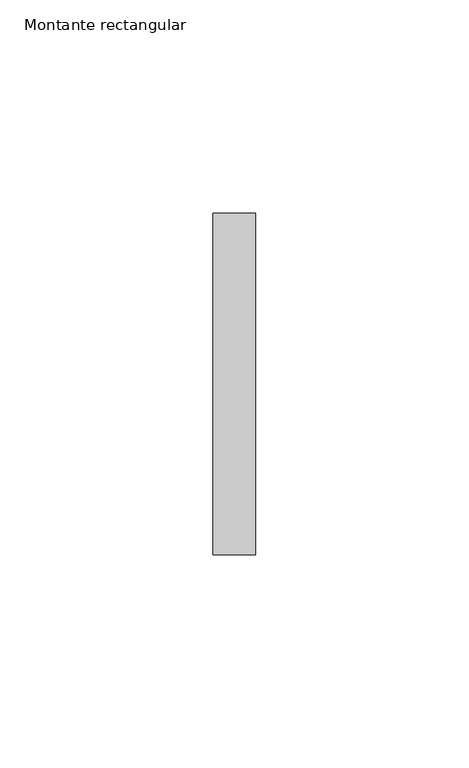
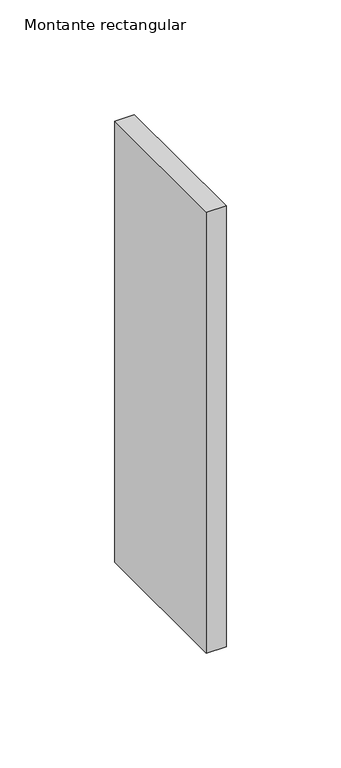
"""IFC4 building model written with IfcOpenShell, lengths in millimetres: member geometry, Montante rectangular : Junta de paves."""

import ifcopenshell
import ifcopenshell.guid

model = None  # the IFC model being written
_history = None  # IfcOwnerHistory: only IFC2X3 demands one
_inside = {}  # id of a spatial element -> (the spatial element, [elements in it])
_under = {}  # id of a project, library or spatial element -> (it, [spatial elements below it])
_declared = {}  # id of a project -> (the project, [libraries it declares])
_typed = {}  # id of a type object -> (the type object, [elements of that type])
_made_of = {}  # id of a material, layer set ... -> (it, [elements and type objects made of it])


def new_model(schema):
    """Start an empty IFC model of exactly this schema.

    Asked for "IFC4X3", IfcOpenShell would pick the latest addendum, in which some entities
    have other attributes; the version numbers below select the first issue.
    IFC2X3 requires an IfcOwnerHistory on every rooted entity: one is made here for all.
    """
    global model, _history
    if schema == "IFC4X3":
        model = ifcopenshell.file(schema_version=(4, 3, 0, 0))
    else:
        model = ifcopenshell.file(schema=schema)
    _inside.clear()
    _under.clear()
    _declared.clear()
    _typed.clear()
    _made_of.clear()
    _history = None
    if model.schema == "IFC2X3":
        org = make("IfcOrganization", Name="unknown")
        user = make(
            "IfcPersonAndOrganization",
            ThePerson=make("IfcPerson", FamilyName="unknown"),
            TheOrganization=org,
        )
        app = make(
            "IfcApplication",
            ApplicationDeveloper=org,
            Version="unknown",
            ApplicationFullName="unknown",
            ApplicationIdentifier="unknown",
        )
        _history = make(
            "IfcOwnerHistory",
            OwningUser=user,
            OwningApplication=app,
            ChangeAction="ADDED",
            CreationDate=0,
        )
    return model


def make(cls, **values):
    """One entity of the class cls with the attributes given. An attribute that is None is left unset."""
    return model.create_entity(
        cls, **{name: value for name, value in values.items() if value is not None}
    )


def rooted(cls, **values):
    """An entity with a GlobalId (a new one), such as an element, a storey or a relation."""
    return make(cls, GlobalId=ifcopenshell.guid.new(), OwnerHistory=_history, **values)


def si_unit(unit_type, name, prefix=None):
    """IfcSIUnit, for example si_unit("LENGTHUNIT", "METRE", prefix="MILLI")."""
    return make("IfcSIUnit", UnitType=unit_type, Prefix=prefix, Name=name)


def assignment(units):
    """IfcUnitAssignment: the units of a project."""
    return None if units is None else make("IfcUnitAssignment", Units=units)


def point(xyz):
    """IfcCartesianPoint."""
    return None if xyz is None else make("IfcCartesianPoint", Coordinates=xyz)


def direction(xyz):
    """IfcDirection."""
    return None if xyz is None else make("IfcDirection", DirectionRatios=xyz)


def frame(location, z_axis=None, x_axis=None):
    """IfcAxis2Placement3D, a coordinate frame: its origin and axes. An axis left out is left unset."""
    return make(
        "IfcAxis2Placement3D",
        Location=point(location),
        Axis=direction(z_axis),
        RefDirection=direction(x_axis),
    )


def origin():
    """The frame at (0, 0, 0) with its axes left unset."""
    return frame((0.0, 0.0, 0.0))


def place(relative_to, where):
    """IfcLocalPlacement: puts the frame where relative to a parent placement (None: the world)."""
    return make(
        "IfcLocalPlacement", PlacementRelTo=relative_to, RelativePlacement=where
    )


def context(
    kind, dimensions, precision=None, world=None, true_north=None, identifier=None
):
    """IfcGeometricRepresentationContext, for example the 3D "Model" context."""
    return make(
        "IfcGeometricRepresentationContext",
        ContextIdentifier=identifier,
        ContextType=kind,
        CoordinateSpaceDimension=dimensions,
        Precision=precision,
        WorldCoordinateSystem=world,
        TrueNorth=true_north,
    )


def project(units=None, contexts=None):
    """IfcProject with its units and contexts."""
    return rooted(
        "IfcProject",
        Name="project",
        RepresentationContexts=contexts,
        UnitsInContext=assignment(units),
    )


def spatial(cls, under=None, at=None, **own):
    """A site, building, storey or space (cls), placed at a placement, below another one or the project."""
    s = rooted(cls, ObjectPlacement=at, **own)
    if under is not None:
        _under.setdefault(under.id(), (under, []))[1].append(s)
    return s


def polyline(points):
    """IfcPolyline through the points."""
    return make("IfcPolyline", Points=[point(p) for p in points])


def outline(outer, holes=None, kind="AREA"):
    """IfcArbitraryClosedProfileDef: a profile drawn as a closed curve; with holes, ...WithVoids."""
    if holes is None:
        return make("IfcArbitraryClosedProfileDef", ProfileType=kind, OuterCurve=outer)
    return make(
        "IfcArbitraryProfileDefWithVoids",
        ProfileType=kind,
        OuterCurve=outer,
        InnerCurves=holes,
    )


def extrude(swept, where, along, depth):
    """IfcExtrudedAreaSolid: the profile swept, set in the frame where, extruded along a direction by depth."""
    return make(
        "IfcExtrudedAreaSolid",
        SweptArea=swept,
        Position=where,
        ExtrudedDirection=direction(along),
        Depth=depth,
    )


def shape(context_of_items, identifier, shape_type, items):
    """IfcShapeRepresentation: the items that make up one representation, for example the "Body"."""
    return make(
        "IfcShapeRepresentation",
        ContextOfItems=context_of_items,
        RepresentationIdentifier=identifier,
        RepresentationType=shape_type,
        Items=items,
    )


def source(mapping_origin, context_of_items, identifier, shape_type, items):
    """IfcRepresentationMap: a shape defined once, which mapped items show again and again."""
    return make(
        "IfcRepresentationMap",
        MappingOrigin=mapping_origin,
        MappedRepresentation=shape(context_of_items, identifier, shape_type, items),
    )


def transform(
    local_origin,
    x_axis=None,
    y_axis=None,
    z_axis=None,
    scale=None,
    scale2=None,
    scale3=None,
    uniform=True,
):
    """IfcCartesianTransformationOperator3D, or its non-uniform kind. x_axis, y_axis, z_axis: its Axis1, 2, 3."""
    if uniform:
        return make(
            "IfcCartesianTransformationOperator3D",
            Axis1=direction(x_axis),
            Axis2=direction(y_axis),
            LocalOrigin=point(local_origin),
            Scale=scale,
            Axis3=direction(z_axis),
        )
    return make(
        "IfcCartesianTransformationOperator3DnonUniform",
        Axis1=direction(x_axis),
        Axis2=direction(y_axis),
        LocalOrigin=point(local_origin),
        Scale=scale,
        Axis3=direction(z_axis),
        Scale2=scale2,
        Scale3=scale3,
    )


def mapped(mapping_source, mapping_target):
    """IfcMappedItem: shows the shape of a source again, moved by a transform."""
    return make(
        "IfcMappedItem", MappingSource=mapping_source, MappingTarget=mapping_target
    )


def made_of(thing, what):
    """Note that an element or type object is made of a material, layer set ...; save() writes the relation."""
    if what is not None:
        _made_of.setdefault(what.id(), (what, []))[1].append(thing)
    return thing


def element(
    cls,
    number,
    at=None,
    inside=None,
    cuts=None,
    type_object=None,
    material=None,
    context=None,
    identifier="Body",
    shape_type=None,
    held_by="IfcProductDefinitionShape",
    body=None,
    shapes=None,
    **own,
):
    """One element of the class cls, such as IfcWall. Its Tag is "e" and its number.

    at: its placement. inside: the storey or other place that contains it. cuts: it is an
    opening in that element (IfcRelVoidsElement). A single representation is given by context,
    identifier, shape_type and body (its items); several are given by shapes. held_by: the class
    of the entity that holds the representations. save() writes the other relations.
    """
    e = rooted(cls, Tag="e%d" % number, ObjectPlacement=at, **own)
    if body is not None:
        shapes = [shape(context, identifier, shape_type, body)]
    if shapes is not None:
        e.Representation = make(held_by, Representations=shapes)
    if inside is not None:
        _inside.setdefault(inside.id(), (inside, []))[1].append(e)
    if cuts is not None:
        rooted(
            "IfcRelVoidsElement", RelatingBuildingElement=cuts, RelatedOpeningElement=e
        )
    if type_object is not None:
        _typed.setdefault(type_object.id(), (type_object, []))[1].append(e)
    return made_of(e, material)


def aggregate(whole, parts):
    """IfcRelAggregates: a whole, such as a stair, and the parts it consists of."""
    return rooted("IfcRelAggregates", RelatingObject=whole, RelatedObjects=parts)


def save(model, path):
    """Write the relations noted so far, then the file.

    IfcRelAggregates (storeys below a building ...), IfcRelContainedInSpatialStructure (elements
    in a storey), IfcRelDefinesByType, IfcRelAssociatesMaterial and IfcRelDeclares: one each for
    every whole, place, type object, material and project.
    """
    for whole, parts in _under.values():
        aggregate(whole, parts)
    for where, things in _inside.values():
        rooted(
            "IfcRelContainedInSpatialStructure",
            RelatedElements=things,
            RelatingStructure=where,
        )
    for kind, things in _typed.values():
        rooted("IfcRelDefinesByType", RelatedObjects=things, RelatingType=kind)
    for what, things in _made_of.values():
        rooted("IfcRelAssociatesMaterial", RelatedObjects=things, RelatingMaterial=what)
    for by, libraries in _declared.values():
        rooted("IfcRelDeclares", RelatingContext=by, RelatedDefinitions=libraries)
    model.write(path)


def montante_rectangular_0f009ab3(model_context):
    return source(origin(), model_context, "Body", "SweptSolid", [
        extrude(outline(polyline([(5.0, 40.0), (5.0, -40.0), (-5.0, -40.0), (-5.0, 40.0), (5.0, 40.0)])), frame((0.0, 0.0, -235.0), z_axis=(0.0, 0.0, 1.0), x_axis=(1.0, 0.0, 0.0)), (0.0, 0.0, 1.0), 235.0),
    ])


if __name__ == "__main__":
    model = new_model("IFC4")
    model_context = context("Model", 3, world=origin())
    ifc_project = project(units=[si_unit("LENGTHUNIT", "METRE", prefix="MILLI")], contexts=[model_context])
    site = spatial("IfcSite", under=ifc_project)
    building = spatial("IfcBuilding", under=site)
    placement = place(None, origin())
    montante_rectangular_shape = montante_rectangular_0f009ab3(model_context)
    element("IfcMember", 1, ObjectType="Montante rectangular : Junta de paves", at=placement, inside=building, context=model_context, shape_type="MappedRepresentation", body=[
        mapped(montante_rectangular_shape, transform((0.0, 0.0, 0.0), x_axis=(1.0, 0.0, 0.0), y_axis=(0.0, 1.0, 0.0), z_axis=(0.0, 0.0, 1.0))),
    ])
    save(model, "model.ifc")
